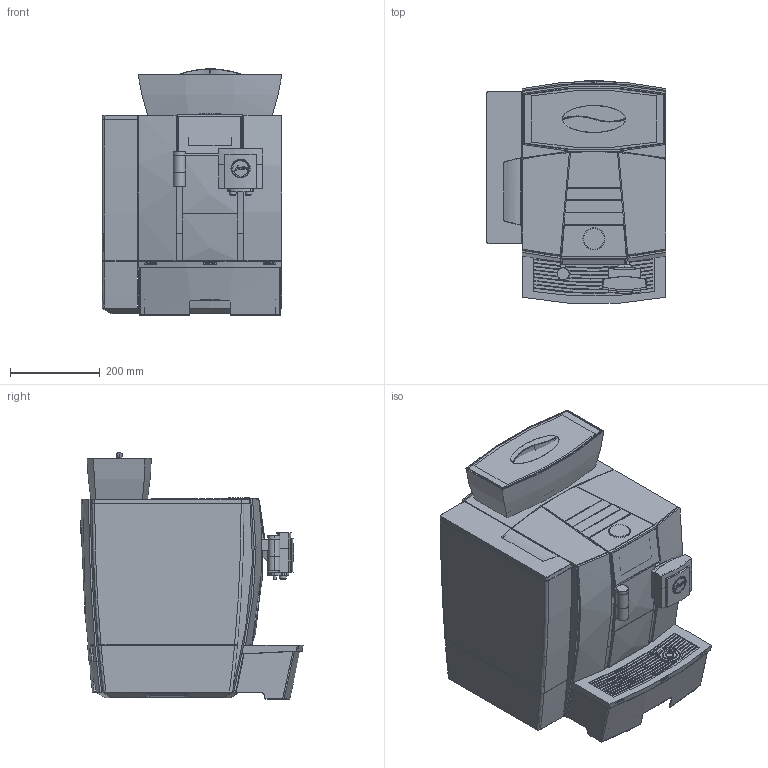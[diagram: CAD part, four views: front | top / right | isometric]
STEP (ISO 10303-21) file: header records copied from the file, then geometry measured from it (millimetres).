
FILE_DESCRIPTION (( 'STEP AP214' ), '1' );
FILE_NAME ('GIGA_X3_GII.STEP', '2018-06-15T08:50:56', ( '' ), ( '' ), 'SwSTEP 2.0', 'SolidWorks 2015', '' );
FILE_SCHEMA (( 'AUTOMOTIVE_DESIGN' ));
Length unit declared in the file: millimetre
Products named in the file (1): GIGA_X3_GII
Bounding box: 400.01 x 494.67 x 548.51 mm (x, y, z)
Volume: 59186405.1 mm3; surface area: 3355978.1 mm2
Topology: 48 solids, 56 shells, 1774 faces, 4605 edges, 2974 vertices
Faces by surface type: bspline 759, plane 535, cylinder 304, cone 63, torus 60, sphere 53
Full cylindrical faces by diameter (mm): 6 x1, 6.2 x2, 12 x1, 15 x2, 26 x1, 27.5 x1, 39 x2, 39.3 x1, 39.5 x1, 41 x1, 41.5 x1, 46.2 x1, 49 x1, 56.7 x1, 113.27 x1
Entity records: 82070 total; most frequent: CARTESIAN_POINT 44514, ORIENTED_EDGE 8976, DIRECTION 5256, EDGE_CURVE 4488, VERTEX_POINT 2921, B_SPLINE_CURVE_WITH_KNOTS 1957, EDGE_LOOP 1899, AXIS2_PLACEMENT_3D 1806
